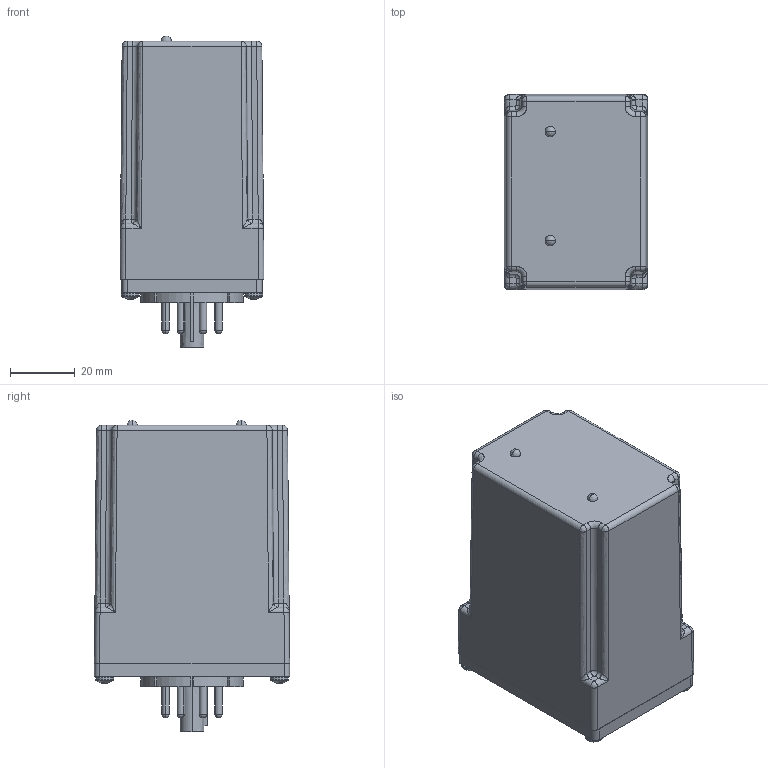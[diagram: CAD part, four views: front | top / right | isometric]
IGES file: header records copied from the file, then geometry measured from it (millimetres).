
Start section: SolidWorks IGES file using analytic representation for surfaces
Global section: file name: D:\Modeling Work\Macromatic\2019\ARP eCAD package\ARP Package\ARP wo Switch.IGS; native system: SolidWorks 2019; preprocessor: SolidWorks 2019; author: mdahl; date: 190519.183902; units: millimetre
Bounding box: 44.45 x 60.33 x 96.33 mm (x, y, z)
Surface area: 28790.1 mm2 (no closed solid volume)
Topology: 0 solids, 0 shells, 684 faces, 8478 edges, 8406 vertices
Faces by surface type: revolution 352, bspline 332
